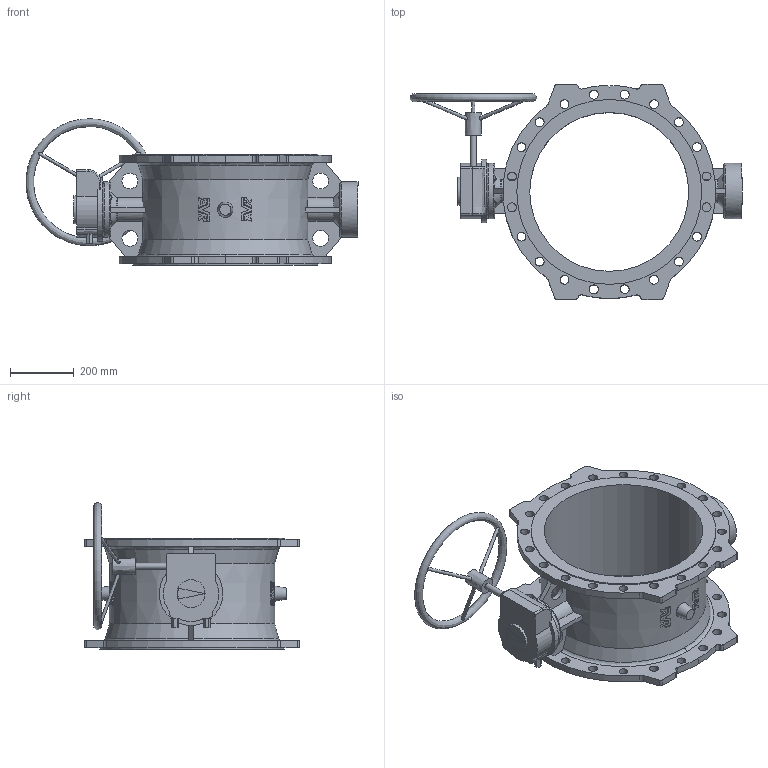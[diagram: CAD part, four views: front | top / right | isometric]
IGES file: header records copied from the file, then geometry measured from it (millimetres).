
Start section: SolidWorks IGES file using analytic representation for surfaces
Global section: file name: \\avksan2\techshare\PBM outline export from Enovia\O_756_1_DN500_0XX00_AA0_igs.igs; native system: SolidWorks 2012; preprocessor: SolidWorks 2012; author: pbm; date: 160304.124905; units: millimetre
Bounding box: 1044.7 x 676 x 461 mm (x, y, z)
Surface area: 2250688.4 mm2 (no closed solid volume)
Topology: 0 solids, 0 shells, 603 faces, 3422 edges, 3306 vertices
Faces by surface type: bspline 403, revolution 200
